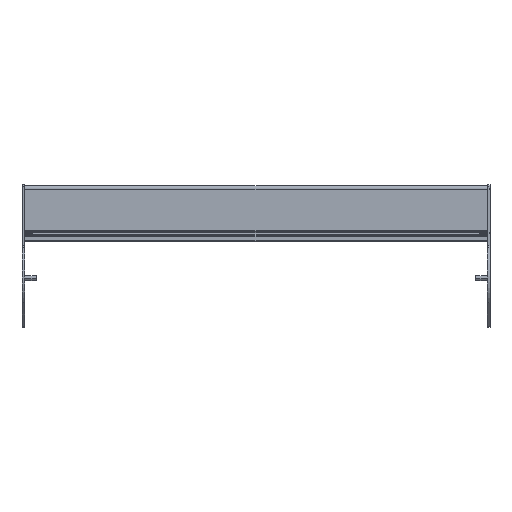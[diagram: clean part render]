
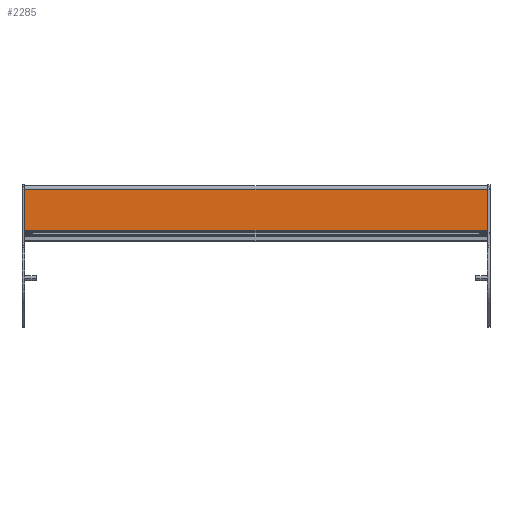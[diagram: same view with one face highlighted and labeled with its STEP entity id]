
A CAD part, top view. The second image highlights one B-rep face of the part: STEP entity #2285.
In plain terms, the highlighted planar face has unit normal (0, 0, 1) as drawn and (1, 0, 0) by its records, which use the part's own axes.
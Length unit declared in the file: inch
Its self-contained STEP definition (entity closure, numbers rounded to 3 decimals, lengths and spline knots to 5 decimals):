
#197=DIRECTION('',(0.,1.,0.));
#198=VECTOR('',#197,1.81445);
#199=CARTESIAN_POINT('',(0.683,-0.84545,-10.118));
#200=LINE('',#199,#198);
#303=DIRECTION('',(0.,1.,0.));
#304=VECTOR('',#303,1.81445);
#305=CARTESIAN_POINT('',(0.683,-0.84545,10.118));
#306=LINE('',#305,#304);
#646=DIRECTION('',(0.,0.,1.));
#647=VECTOR('',#646,20.236);
#648=CARTESIAN_POINT('',(0.683,0.969,-10.118));
#649=LINE('',#648,#647);
#659=DIRECTION('',(0.,0.,-1.));
#660=VECTOR('',#659,20.236);
#661=CARTESIAN_POINT('',(0.683,-0.84545,10.118));
#662=LINE('',#661,#660);
#1270=CARTESIAN_POINT('',(0.683,-0.84545,-10.118));
#1271=CARTESIAN_POINT('',(0.683,0.969,-10.118));
#1272=VERTEX_POINT('',#1270);
#1273=VERTEX_POINT('',#1271);
#1274=CARTESIAN_POINT('',(0.683,-0.84545,10.118));
#1275=CARTESIAN_POINT('',(0.683,0.969,10.118));
#1276=VERTEX_POINT('',#1274);
#1277=VERTEX_POINT('',#1275);
#2273=CARTESIAN_POINT('',(0.683,-0.86334,-10.118));
#2274=DIRECTION('',(1.,0.,0.));
#2275=DIRECTION('',(0.,1.,0.));
#2276=AXIS2_PLACEMENT_3D('',#2273,#2274,#2275);
#2277=PLANE('',#2276);
#2278=ORIENTED_EDGE('',*,*,#1631,.F.);
#2280=ORIENTED_EDGE('',*,*,#2279,.F.);
#2281=ORIENTED_EDGE('',*,*,#1734,.T.);
#2282=ORIENTED_EDGE('',*,*,#2266,.F.);
#2283=EDGE_LOOP('',(#2278,#2280,#2281,#2282));
#2284=FACE_OUTER_BOUND('',#2283,.F.);
#1631=EDGE_CURVE('',#1272,#1273,#200,.T.);
#1734=EDGE_CURVE('',#1276,#1277,#306,.T.);
#2266=EDGE_CURVE('',#1273,#1277,#649,.T.);
#2279=EDGE_CURVE('',#1276,#1272,#662,.T.);
#2285=ADVANCED_FACE('',(#2284),#2277,.T.);
